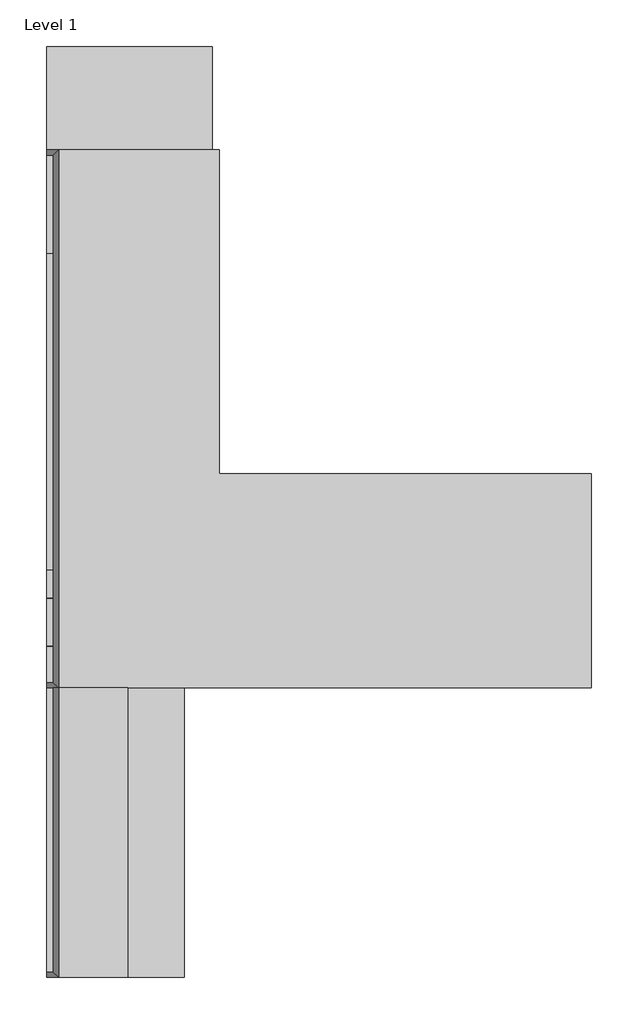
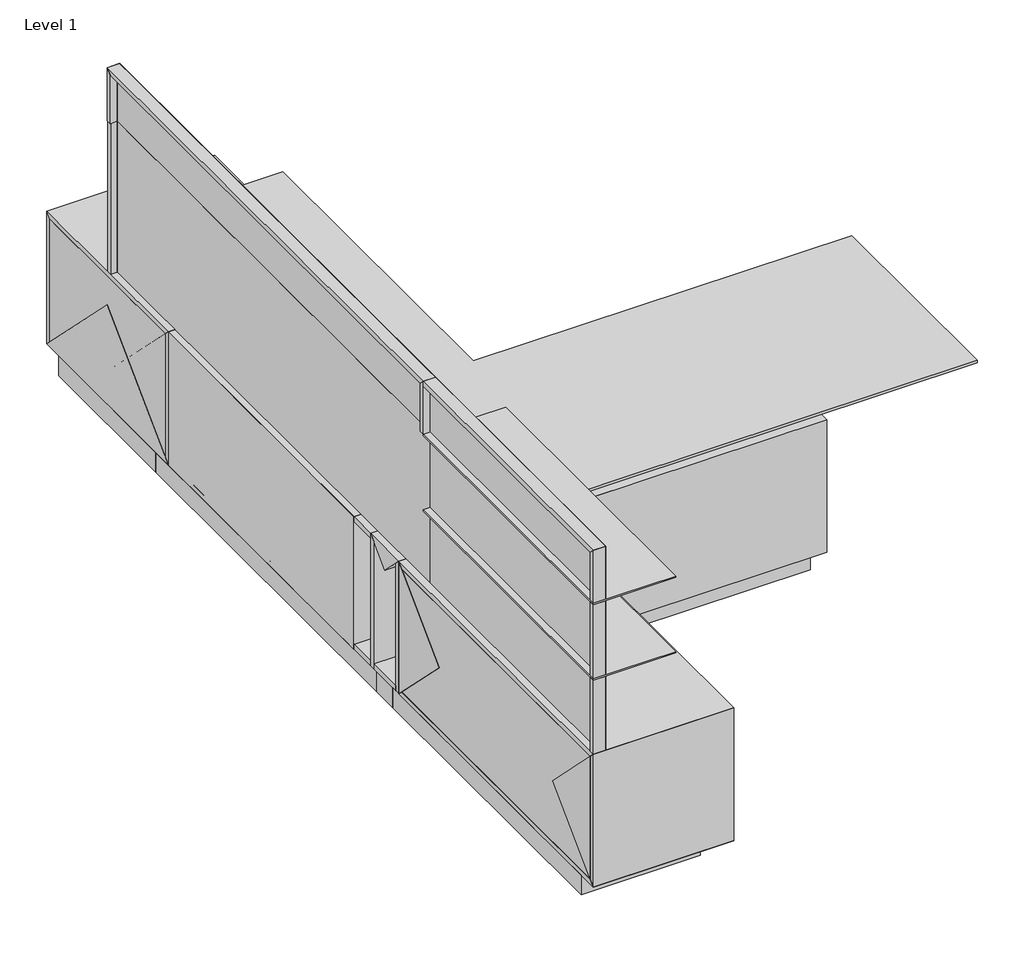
# One storey, incomplete: 10 proxies.
"""IFC4 building model written with IfcOpenShell, lengths in millimetres."""

from ifc_helpers import new_model, si_unit, origin, place, context, project, spatial, transform, mapped, element, save
from components import generic_models_cf6981da, generic_models_fc933c07, generic_models_58bf09ec, generic_models_0db4efbe, generic_models_31f89c38, generic_models_822ae202, generic_models_14cf82bf, generic_models_a1561ee6

model = new_model("IFC4")

# Units and contexts
model_context = context("Model", 3, world=origin())
ifc_project = project(units=[si_unit("LENGTHUNIT", "METRE", prefix="MILLI")], contexts=[model_context])

# Site, building, storey
site = spatial("IfcSite", under=ifc_project)
building = spatial("IfcBuilding", under=site)
storey = spatial("IfcBuildingStorey", under=building, Name="Level 1", Elevation=0.0)

# Proxies
placement = place(None, origin())
generic_models_shape = generic_models_cf6981da(model_context)
element("IfcBuildingElementProxy", 1, Name="CCN^CANTILEVER BRACKET_.5x12x12", ObjectType="CCN^CANTILEVER BRACKET_.5x12x12", at=placement, inside=storey, context=model_context, shape_type="MappedRepresentation", body=[
    mapped(generic_models_shape, transform((133.35, -76.2, 330.2), x_axis=(0.0, -1.0, 0.0), y_axis=(0.0, 0.0, 1.0), z_axis=(-1.0, 0.0, 0.0))),
])
element("IfcBuildingElementProxy", 2, Name="CCN^CANTILEVER BRACKET_.5x12x12", ObjectType="CCN^CANTILEVER BRACKET_.5x12x12", at=placement, inside=storey, context=model_context, shape_type="MappedRepresentation", body=[
    mapped(generic_models_shape, transform((254.0, -1390.65, 330.2), x_axis=(1.0, 0.0, 0.0), y_axis=(0.0, 0.0, 1.0), z_axis=(0.0, -1.0, 0.0))),
])
element("IfcBuildingElementProxy", 3, Name="CCN^CANTILEVER BRACKET_.5x12x12", ObjectType="CCN^CANTILEVER BRACKET_.5x12x12", at=placement, inside=storey, context=model_context, shape_type="MappedRepresentation", body=[
    mapped(generic_models_shape, transform((1422.4, -1390.65, 330.2), x_axis=(1.0, 0.0, 0.0), y_axis=(0.0, 0.0, 1.0), z_axis=(0.0, -1.0, 0.0))),
])
generic_models_2_shape = generic_models_fc933c07(model_context)
element("IfcBuildingElementProxy", 4, Name="CCN^APOGEE_L3 WALL HUNG-42 METAL SHELVES PARTS SOLID", ObjectType="CCN^APOGEE_L3 WALL HUNG-42 METAL SHELVES PARTS SOLID", at=placement, inside=storey, context=model_context, shape_type="MappedRepresentation", body=[
    mapped(generic_models_2_shape, transform((25.4, -2667.0, 508.0), x_axis=(0.0, 1.0, 0.0), y_axis=(0.0, 0.0, 1.0), z_axis=(1.0, 0.0, 0.0))),
])
generic_models_3_shape = generic_models_58bf09ec(model_context)
element("IfcBuildingElementProxy", 5, Name="CCN^APOGEE_L3 WALL HUNG-78 TACK PARTS SOLID", ObjectType="CCN^APOGEE_L3 WALL HUNG-78 TACK PARTS SOLID", at=placement, inside=storey, context=model_context, shape_type="MappedRepresentation", body=[
    mapped(generic_models_3_shape, transform((25.4, -1599.40625, 508.79375), x_axis=(0.0, 1.0, 0.0), y_axis=(0.0, 0.0, 1.0), z_axis=(1.0, 0.0, 0.0))),
])
generic_models_4_shape = generic_models_0db4efbe(model_context)
element("IfcBuildingElementProxy", 6, Name="CCN^APOGEE_L3 KNEE WALL-FIXED TOP SOLID", ObjectType="CCN^APOGEE_L3 KNEE WALL-FIXED TOP SOLID", at=placement, inside=storey, context=model_context, shape_type="MappedRepresentation", body=[
    mapped(generic_models_4_shape, transform((1549.4, -1447.8, 0.0), x_axis=(0.0, 1.0, 0.0), y_axis=(0.0, 0.0, 1.0), z_axis=(1.0, 0.0, 0.0))),
])
generic_models_5_shape = generic_models_31f89c38(model_context)
element("IfcBuildingElementProxy", 7, Name="CCN^APOGEE_L3 WORKSURFACE-77x78 SOLID", ObjectType="CCN^APOGEE_L3 WORKSURFACE-77x78 SOLID", at=placement, inside=storey, context=model_context, shape_type="MappedRepresentation", body=[
    mapped(generic_models_5_shape, transform((2006.6, -1600.2, 635.0), x_axis=(0.0, 1.0, 0.0), y_axis=(0.0, 0.0, 1.0), z_axis=(1.0, 0.0, 0.0))),
])
generic_models_6_shape = generic_models_822ae202(model_context)
element("IfcBuildingElementProxy", 8, Name="CCN^APOGEE_L3 30 SHELF STORAGE (20 DEEP)-PARTS SOLID", ObjectType="CCN^APOGEE_L3 30 SHELF STORAGE (20 DEEP)-PARTS SOLID", at=placement, inside=storey, context=model_context, shape_type="MappedRepresentation", body=[
    mapped(generic_models_6_shape, transform((0.0, -2647.95, 19.05), x_axis=(0.0, 1.0, 0.0), y_axis=(0.0, 0.0, 1.0), z_axis=(1.0, 0.0, 0.0))),
])
generic_models_7_shape = generic_models_14cf82bf(model_context)
element("IfcBuildingElementProxy", 9, Name="CCN^APOGEE_L3 30 LAT BF PED PULL LT (24 DEEP)-PARTS SOLID", ObjectType="CCN^APOGEE_L3 30 LAT BF PED PULL LT (24 DEEP)-PARTS SOLID", at=placement, inside=storey, context=model_context, shape_type="MappedRepresentation", body=[
    mapped(generic_models_7_shape, transform((0.0, -2266.95, 19.05), x_axis=(0.0, 1.0, 0.0), y_axis=(0.0, 0.0, 1.0), z_axis=(1.0, 0.0, 0.0))),
])
generic_models_8_shape = generic_models_a1561ee6(model_context)
element("IfcBuildingElementProxy", 10, Name="CCN^APOGEE_L3 WALL HUNG-78 WOOD CAP PARTS SOLID", ObjectType="CCN^APOGEE_L3 WALL HUNG-78 WOOD CAP PARTS SOLID", at=placement, inside=storey, context=model_context, shape_type="MappedRepresentation", body=[
    mapped(generic_models_8_shape, transform((25.4, -1600.2, 1085.85), x_axis=(0.0, 1.0, 0.0), y_axis=(0.0, 0.0, 1.0), z_axis=(1.0, 0.0, 0.0))),
])

save(model, "model.ifc")
